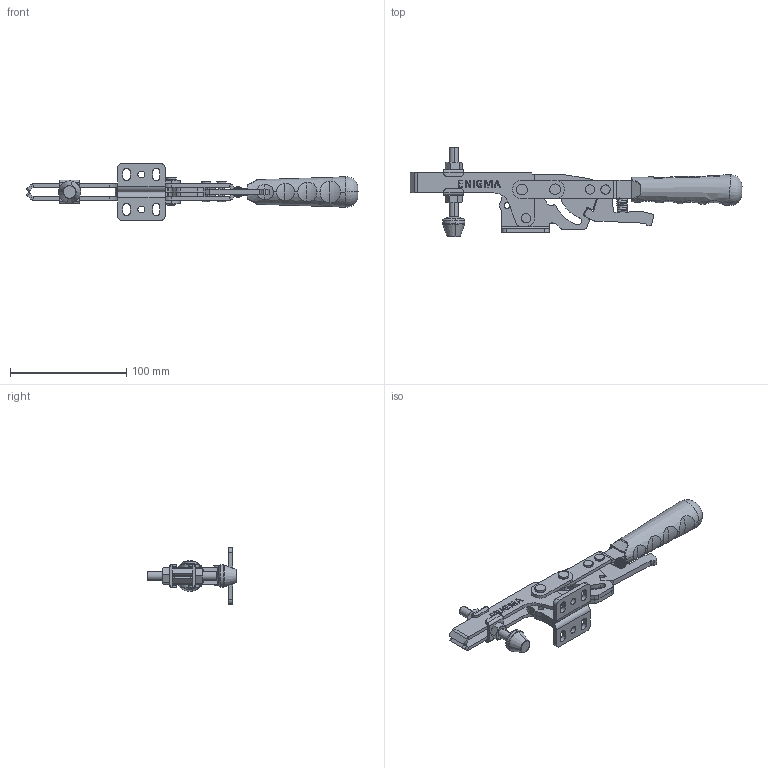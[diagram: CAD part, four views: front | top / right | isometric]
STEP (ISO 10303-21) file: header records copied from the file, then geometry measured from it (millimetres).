
FILE_DESCRIPTION (( 'STEP AP203' ), '1' );
FILE_NAME ('1244_Y.STEP', '2022-12-13T11:58:53', ( '' ), ( '' ), 'SwSTEP 2.0', 'SolidWorks 2023', '' );
FILE_SCHEMA (( 'CONFIG_CONTROL_DESIGN' ));
Length unit declared in the file: millimetre
Products named in the file (16): 2225_KozaMafsal; 1244_Y; C95_Yeni_Tutamak_Varsayılan; 2225_HareketKolu; Pim_5x18_Varsayılan; Pim_6x24_5_Varsayılan; M8 Somun_Varsayılan; M8 Askı_Varsayılan; 2225_BaskıKolu; M8_BASKI_GRUBU ^1244_Y; Mirror1234 Y YENİ GÖVDE_Varsayılan; cap5x15_CekmeYayı; 2225_K_Mandal3; M8 Baskı_Varsayılan; Aynalama2225_BaskıKolu; 1234 Y YENİ GÖVDE_Varsayılan
Assembly tree (22 placements, depth 3):
  1244_Y
    2225_BaskıKolu
    2225_KozaMafsal  x2
    2225_HareketKolu  x2
    Aynalama2225_BaskıKolu
    Pim_5x18_Varsayılan  x3
    Pim_6x24_5_Varsayılan  x2
    2225_K_Mandal3
    cap5x15_CekmeYayı
    M8_BASKI_GRUBU ^1244_Y
      M8 Askı_Varsayılan  x2
      M8 Baskı_Varsayılan
    C95_Yeni_Tutamak_Varsayılan
    M8 Somun_Varsayılan  x2
    1234 Y YENİ GÖVDE_Varsayılan
    Mirror1234 Y YENİ GÖVDE_Varsayılan
Bounding box: 285.41 x 77 x 48.78 mm (x, y, z)
Volume: 110201.1 mm3; surface area: 69856.4 mm2
Topology: 21 solids, 21 shells, 1062 faces, 2738 edges, 1754 vertices
Faces by surface type: plane 587, cylinder 296, bspline 111, torus 42, cone 24, sphere 2
Entity records: 33185 total; most frequent: CARTESIAN_POINT 11736, ORIENTED_EDGE 4242, DIRECTION 3773, EDGE_CURVE 2121, VERTEX_POINT 1372, LINE 1335, VECTOR 1335, AXIS2_PLACEMENT_3D 1219
